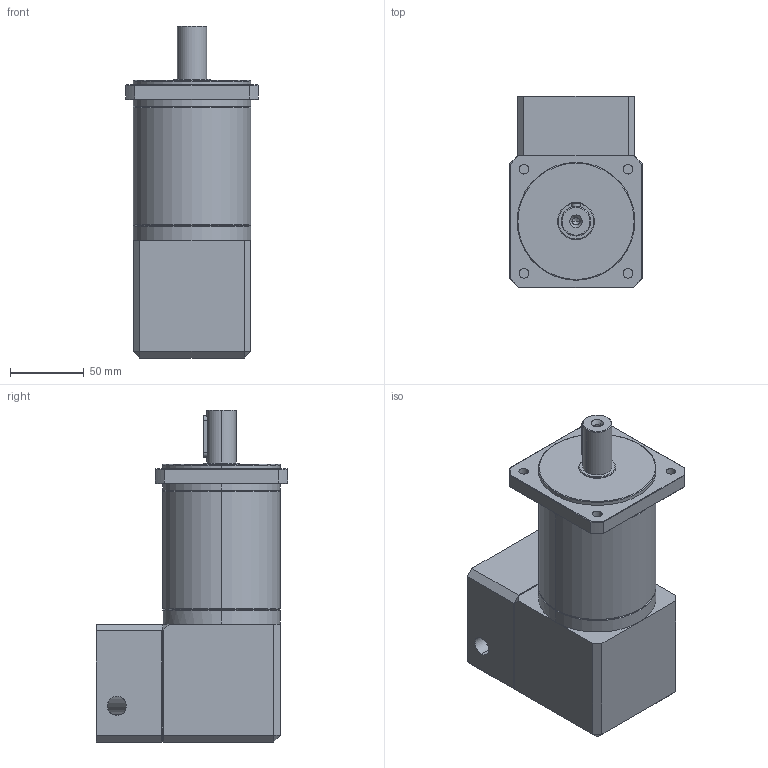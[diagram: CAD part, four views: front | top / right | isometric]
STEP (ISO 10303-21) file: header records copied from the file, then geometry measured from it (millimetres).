
FILE_DESCRIPTION (( 'STEP AP214' ), '1' );
FILE_NAME ('×°ÅäÌå10.STEP', '2021-08-07T00:36:52', ( 'XJJ' ), ( '' ), 'SwSTEP 2.0', 'SolidWorks 2016', '' );
FILE_SCHEMA (( 'AUTOMOTIVE_DESIGN' ));
Length unit declared in the file: millimetre
Products named in the file (3): hexagon socket head cap screws gb_GB_FASTENER_SCREWS_HSHCS M5X16-N; WPF80-L3-19×40-70-90M6 三维外形图; 蚾饜极10
Assembly tree (2 placements, depth 2):
  蚾饜极10
    WPF80-L3-19×40-70-90M6 三维外形图
    hexagon socket head cap screws gb_GB_FASTENER_SCREWS_HSHCS M5X16-N
Bounding box: 90 x 130 x 225.5 mm (x, y, z)
Volume: 1313840.4 mm3; surface area: 102696.1 mm2
Topology: 2 solids, 2 shells, 196 faces, 450 edges, 262 vertices
Faces by surface type: plane 79, cylinder 62, cone 44, torus 11
Entity records: 6033 total; most frequent: CARTESIAN_POINT 1301, DIRECTION 984, ORIENTED_EDGE 876, EDGE_CURVE 438, AXIS2_PLACEMENT_3D 375, VERTEX_POINT 262, LINE 234, VECTOR 234
